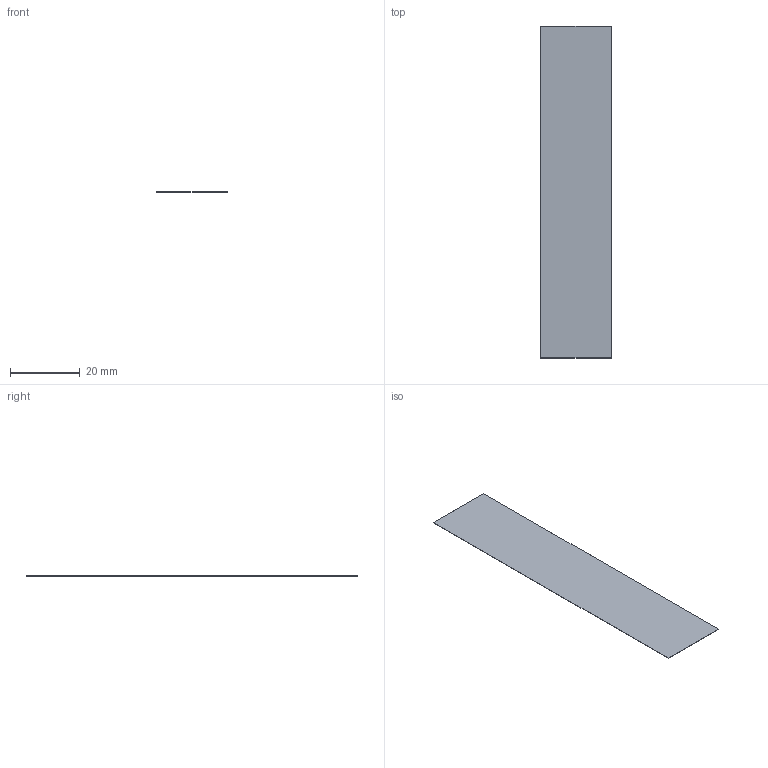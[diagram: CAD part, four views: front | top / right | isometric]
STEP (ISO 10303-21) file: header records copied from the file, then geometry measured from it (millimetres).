
FILE_DESCRIPTION(('Open CASCADE Model'),'2;1');
FILE_NAME('R36_STOCK_ANTENNA_PET_DIELECTRIC_0p10','2026-09-15T13:10:23', ('Author'),('Open CASCADE'),'Open CASCADE STEP processor 7.9', 'build123d','Unknown');
FILE_SCHEMA(('AUTOMOTIVE_DESIGN { 1 0 10303 214 1 1 1 1 }'));
Length unit declared in the file: millimetre
Products named in the file (1): R36_STOCK_ANTENNA_PET_DIELECTRIC_0p10
Bounding box: 20.4 x 95.4 x 0.1 mm (x, y, z)
Volume: 194.6 mm3; surface area: 3915.5 mm2
Topology: 1 solids, 1 shells, 6 faces, 12 edges, 8 vertices
Faces by surface type: plane 6
Entity records: 322 total; most frequent: CARTESIAN_POINT 51, DIRECTION 50, LINE 36, VECTOR 36, ORIENTED_EDGE 24, PCURVE 24, DEFINITIONAL_REPRESENTATION 24, EDGE_CURVE 12
